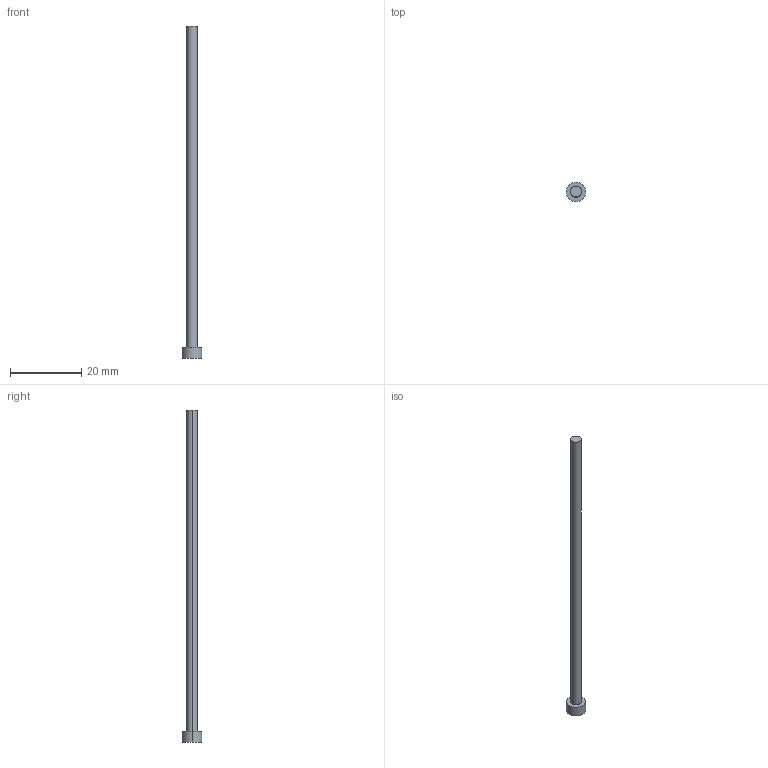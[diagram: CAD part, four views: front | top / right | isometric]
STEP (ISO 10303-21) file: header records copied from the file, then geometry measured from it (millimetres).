
FILE_DESCRIPTION (( 'STEP AP203' ), '1' );
FILE_NAME ('REF_M3x90_screw.step', '2026-10-07T08:23:19', ( '' ), ( '' ), 'SwSTEP 2.0', 'SolidWorks 2025', '' );
FILE_SCHEMA (( 'CONFIG_CONTROL_DESIGN' ));
Length unit declared in the file: millimetre
Products named in the file (1): REF_M3x90_screw
Bounding box: 5.5 x 5.5 x 93 mm (x, y, z)
Volume: 707.4 mm3; surface area: 947.6 mm2
Topology: 1 solids, 1 shells, 7 faces, 12 edges, 8 vertices
Faces by surface type: cylinder 4, plane 3
Entity records: 251 total; most frequent: DIRECTION 36, CARTESIAN_POINT 28, ORIENTED_EDGE 24, AXIS2_PLACEMENT_3D 16, EDGE_CURVE 12, PERSON_AND_ORGANIZATION 8, VERTEX_POINT 8, EDGE_LOOP 8
